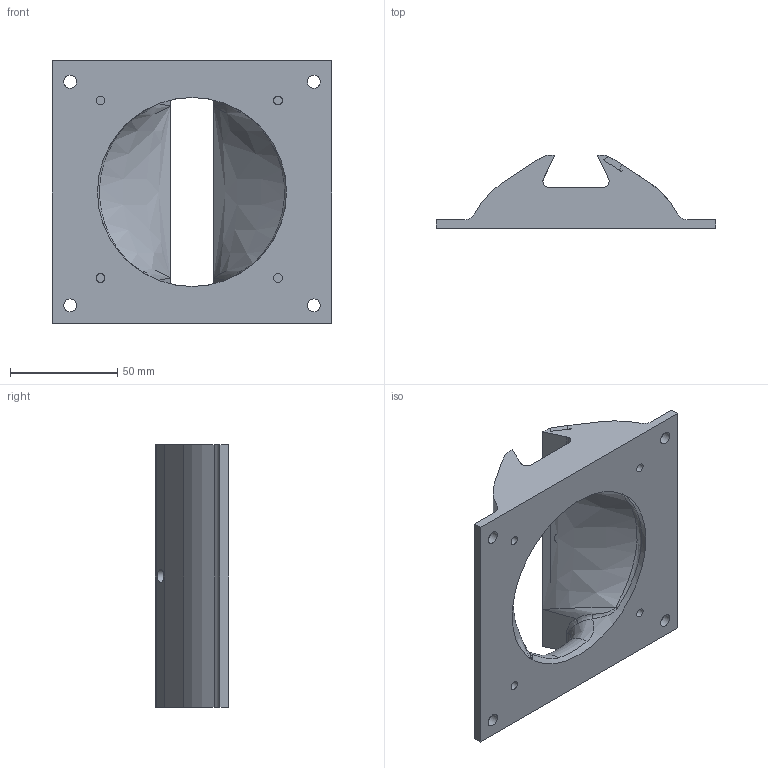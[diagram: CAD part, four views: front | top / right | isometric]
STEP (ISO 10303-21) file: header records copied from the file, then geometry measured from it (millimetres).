
FILE_DESCRIPTION(/* description */ (''),/* implementation_level */ '2;1');
FILE_NAME(/* name */ 'airduct_middle_jarvistext_JARVIS_airpath.step',/* time_stamp */ '2023-06-05T13:34:46+02:00',/* author */ (''),/* organization */ (''),/* preprocessor_version */ 'ST-DEVELOPER v19.2',/* originating_system */ 'Autodesk Translation Framework v12.6.0.85',/* authorisation */ '');
FILE_SCHEMA (('AUTOMOTIVE_DESIGN { 1 0 10303 214 3 1 1 }'));
Length unit declared in the file: millimetre
Products named in the file (1): 4_endcap_JARVIS_airpath
Bounding box: 130 x 34 x 122.25 mm (x, y, z)
Volume: 158165.8 mm3; surface area: 47161.8 mm2
Topology: 1 solids, 1 shells, 332 faces, 950 edges, 616 vertices
Faces by surface type: plane 187, bspline 113, cylinder 30, torus 2
Full cylindrical faces by diameter (mm): 4.125 x4, 6 x7, 88 x1
Entity records: 13288 total; most frequent: CARTESIAN_POINT 5337, ORIENTED_EDGE 1884, DIRECTION 1215, EDGE_CURVE 942, LINE 625, VECTOR 625, VERTEX_POINT 616, EDGE_LOOP 350
